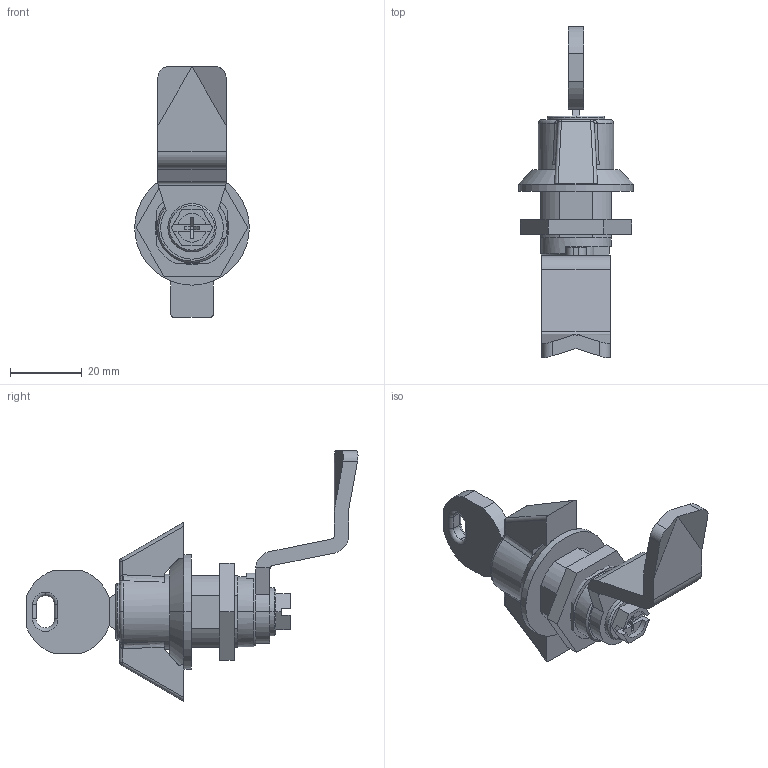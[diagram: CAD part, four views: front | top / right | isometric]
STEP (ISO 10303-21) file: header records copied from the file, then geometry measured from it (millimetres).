
FILE_DESCRIPTION (( 'STEP AP214' ), '1' );
FILE_NAME ('115-SUK-40-SW.step', '2025-07-24T13:05:10', ( '' ), ( '' ), 'SwSTEP 2.0', 'SolidWorks 2022', '' );
FILE_SCHEMA (( 'AUTOMOTIVE_DESIGN' ));
Length unit declared in the file: millimetre
Products named in the file (6): 115-SUK-40-SW; WB115_Betätigungswelle_Schloss^WB115_AB_SK; WB115_Schlüssel^WB115_AB; WB115_Gegenmutter^WB115_AB; WB115_Gehäuse^WB115_AB_32-SW; WB115_Zunge^WB115_AB_40
Assembly tree (5 placements, depth 2):
  115-SUK-40-SW
    WB115_Gehäuse^WB115_AB_32-SW
    WB115_Betätigungswelle_Schloss^WB115_AB_SK
    WB115_Zunge^WB115_AB_40
    WB115_Gegenmutter^WB115_AB
    WB115_Schlüssel^WB115_AB
Bounding box: 32 x 92.69 x 70 mm (x, y, z)
Volume: 26665.2 mm3; surface area: 14575.7 mm2
Topology: 5 solids, 5 shells, 226 faces, 563 edges, 354 vertices
Faces by surface type: plane 119, cylinder 70, bspline 12, torus 11, cone 9, sphere 5
Entity records: 7849 total; most frequent: CARTESIAN_POINT 1653, DIRECTION 1128, ORIENTED_EDGE 1116, EDGE_CURVE 558, AXIS2_PLACEMENT_3D 401, VERTEX_POINT 354, LINE 326, VECTOR 326
